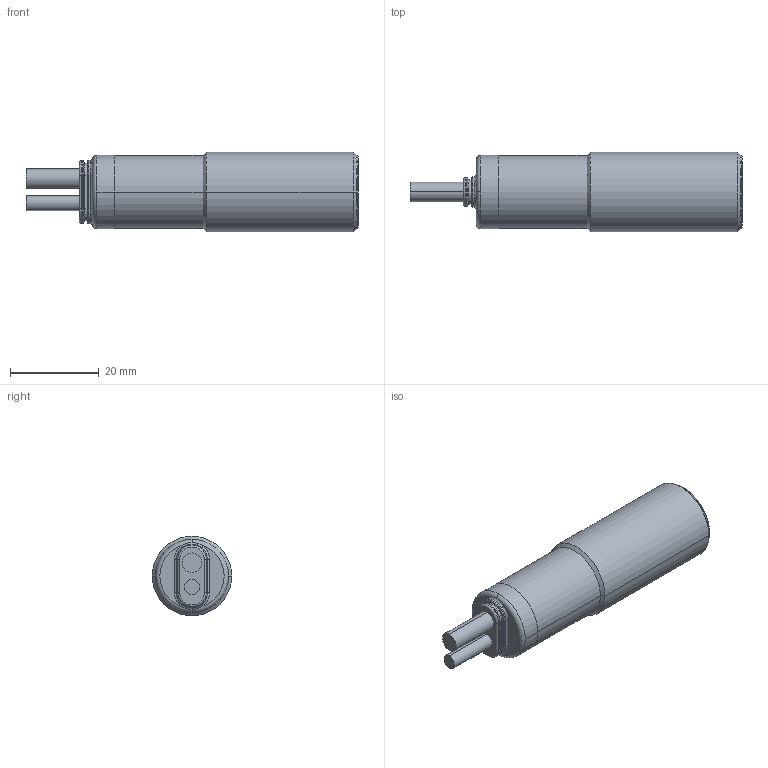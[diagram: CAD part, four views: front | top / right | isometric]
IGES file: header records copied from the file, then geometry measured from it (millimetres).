
Global section: file name: No Iges File Name specified; native system: Autodesk Inventor 2009; preprocessor: AutoDesk Inventor Iges Exporter R2009; author: Oliver Liedtke; date: 20100128.134610; units: millimetre
Bounding box: 75 x 18 x 18 mm (x, y, z)
Volume: 14695.6 mm3; surface area: 4118.7 mm2
Topology: 1 solids, 1 shells, 77 faces, 170 edges, 102 vertices
Faces by surface type: cylinder 20, plane 17, torus 12, revolution 10, bspline 10, cone 8
